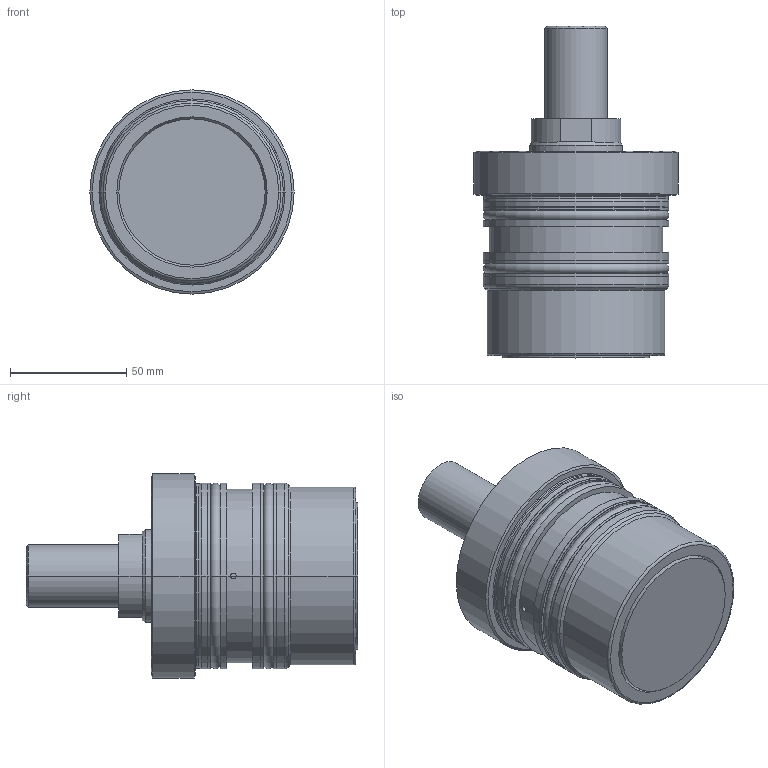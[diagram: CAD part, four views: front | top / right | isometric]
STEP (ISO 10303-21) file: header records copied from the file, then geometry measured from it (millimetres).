
FILE_DESCRIPTION (( 'STEP AP203' ), '1' );
FILE_NAME ('GERMA_Einschraubzylinder_200-063-030-A.STEP', '2023-09-06T08:33:37', ( '' ), ( '' ), 'SwSTEP 2.0', 'SolidWorks 2016', '' );
FILE_SCHEMA (( 'CONFIG_CONTROL_DESIGN' ));
Length unit declared in the file: millimetre
Products named in the file (3): Kolben 60x-063_Kolben DU.63-Hub30-AG; Gehaeuse 200-063_Gehaeuse 200-063-030; GERMA_Einschraubzylinder_200-063-030-A
Assembly tree (2 placements, depth 2):
  GERMA_Einschraubzylinder_200-063-030-A
    Gehaeuse 200-063_Gehaeuse 200-063-030
    Kolben 60x-063_Kolben DU.63-Hub30-AG
Bounding box: 88 x 143 x 88 mm (x, y, z)
Volume: 428332.4 mm3; surface area: 74559.1 mm2
Topology: 2 solids, 2 shells, 248 faces, 613 edges, 391 vertices
Faces by surface type: plane 95, bspline 68, cylinder 43, torus 22, cone 20
Entity records: 11237 total; most frequent: CARTESIAN_POINT 5433, ORIENTED_EDGE 1218, DIRECTION 978, EDGE_CURVE 609, VERTEX_POINT 391, AXIS2_PLACEMENT_3D 328, LINE 322, VECTOR 322
